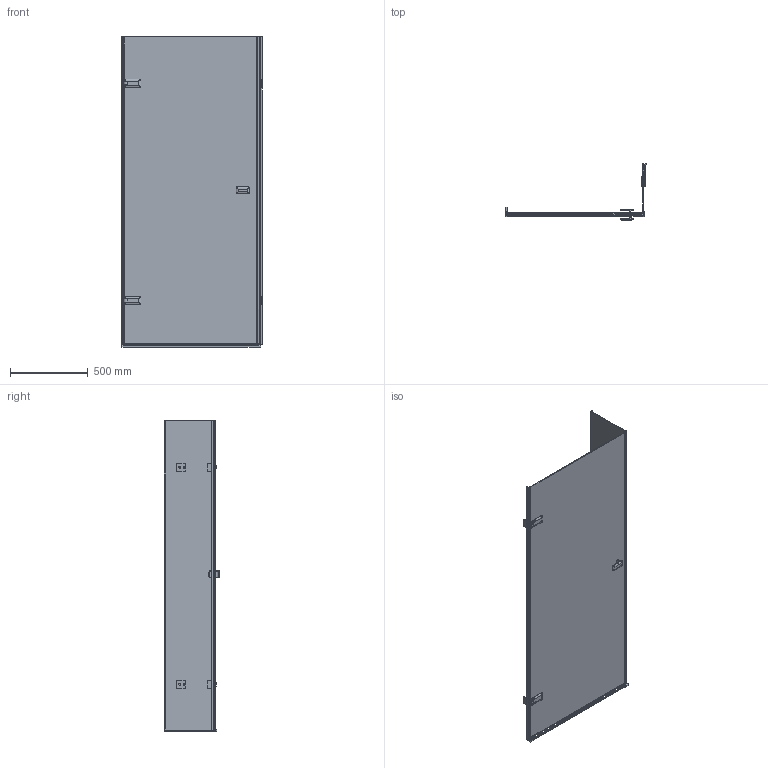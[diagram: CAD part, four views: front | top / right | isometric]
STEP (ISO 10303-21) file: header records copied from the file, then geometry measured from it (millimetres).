
FILE_DESCRIPTION(/* description */ (''),/* implementation_level */ '2;1');
FILE_NAME(/* name */ 'E:\Работа\Сергей\Душевые кабинки\! Работа\TREND SQUARE GK-862GC-2722\TREND SQUARE GK-862GC-2722 левая модель\TREND SQUARE GK-862GC-2722 ЛЕВАЯ-3D.stp',/* time_stamp */ '2018-06-06T18:54:21+03:00',/* author */ ('PC'),/* organization */ (''),/* preprocessor_version */ 'ST-DEVELOPER v15.2',/* originating_system */ 'Autodesk Inventor 2014',/* authorisation */ '');
FILE_SCHEMA (('AUTOMOTIVE_DESIGN { 1 0 10303 214 3 1 1 }'));
Length unit declared in the file: millimetre
Products named in the file (1): TREND SQUARE GK-862GC-2722 ЛЕВАЯ-
3D
Bounding box: 905.6 x 359.96 x 2001 mm (x, y, z)
Volume: 15321387.7 mm3; surface area: 5338615.3 mm2
Topology: 3 solids, 3 shells, 882 faces, 2300 edges, 1405 vertices
Faces by surface type: plane 556, cylinder 235, bspline 52, torus 30, sphere 9
Full cylindrical faces by diameter (mm): 12 x2
Entity records: 29395 total; most frequent: CARTESIAN_POINT 6961, ORIENTED_EDGE 4530, DIRECTION 4382, EDGE_CURVE 2265, LINE 1602, VECTOR 1602, VERTEX_POINT 1405, AXIS2_PLACEMENT_3D 1390
